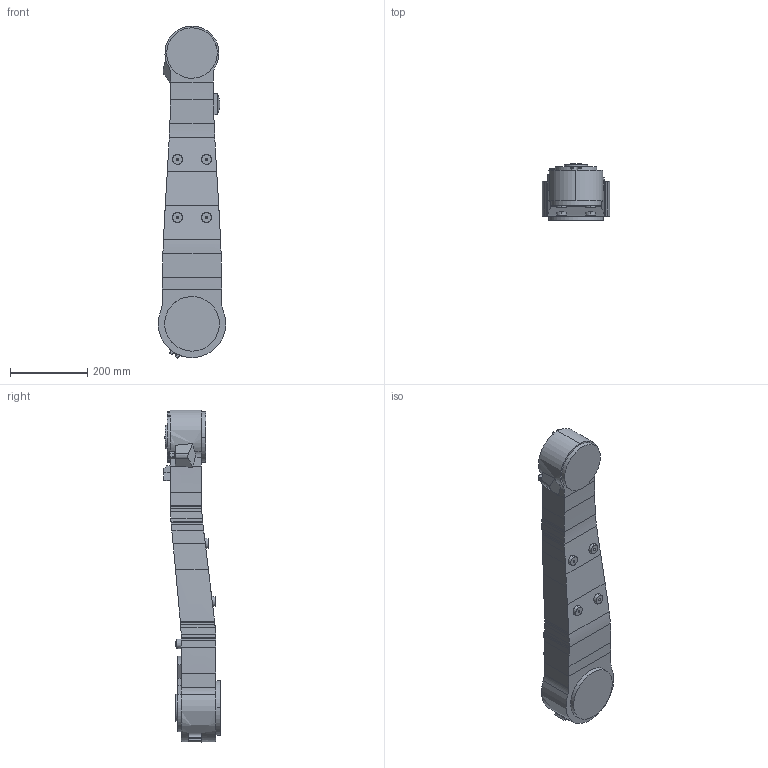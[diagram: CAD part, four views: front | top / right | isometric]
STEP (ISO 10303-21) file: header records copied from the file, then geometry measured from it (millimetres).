
FILE_DESCRIPTION (( 'STEP AP214' ), '1' );
FILE_NAME ('IRB1600ID_6-155_IRC5_rev0_LINK2.STEP', '2016-03-24T06:25:08', ( 'ABB' ), ( 'ABB' ), 'SwSTEP 2.0', 'SolidWorks 2014', '' );
FILE_SCHEMA (( 'AUTOMOTIVE_DESIGN' ));
Length unit declared in the file: millimetre
Products named in the file (1): IRB1600ID_6-155_IRC5_rev0_LINK2
Bounding box: 174.46 x 146 x 858.26 mm (x, y, z)
Volume: 10467900.9 mm3; surface area: 422574.4 mm2
Topology: 2 solids, 2 shells, 237 faces, 629 edges, 409 vertices
Faces by surface type: bspline 122, plane 67, cylinder 25, cone 21, torus 2
Entity records: 12345 total; most frequent: CARTESIAN_POINT 7029, ORIENTED_EDGE 1242, EDGE_CURVE 621, DIRECTION 620, VERTEX_POINT 409, B_SPLINE_CURVE_WITH_KNOTS 294, VECTOR 266, LINE 266
